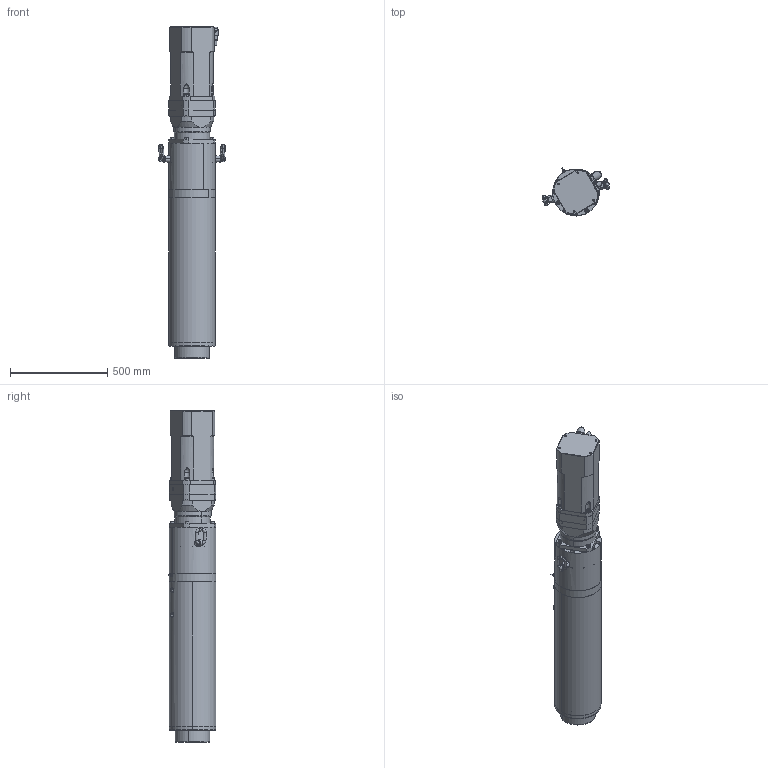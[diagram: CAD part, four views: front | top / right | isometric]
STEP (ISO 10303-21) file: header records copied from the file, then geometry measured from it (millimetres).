
FILE_DESCRIPTION (( 'STEP AP203' ), '1' );
FILE_NAME ('KM LN5I2000-035-010H.STEP', '2019-07-05T10:45:06', ( '' ), ( '' ), 'SwSTEP 2.0', 'SolidWorks 2016', '' );
FILE_SCHEMA (( 'CONFIG_CONTROL_DESIGN' ));
Length unit declared in the file: millimetre
Products named in the file (1): KM LN5I2000-035-010H
Bounding box: 345.55 x 245.71 x 1707 mm (x, y, z)
Surface area: 3290427.7 mm2 (no closed solid volume)
Topology: 0 solids, 36 shells, 1319 faces, 3144 edges, 1916 vertices
Faces by surface type: cylinder 554, plane 477, cone 212, torus 70, bspline 6
Entity records: 39630 total; most frequent: CARTESIAN_POINT 8942, DIRECTION 6785, ORIENTED_EDGE 6008, EDGE_CURVE 3010, AXIS2_PLACEMENT_3D 2659, VERTEX_POINT 1916, EDGE_LOOP 1566, LINE 1467
